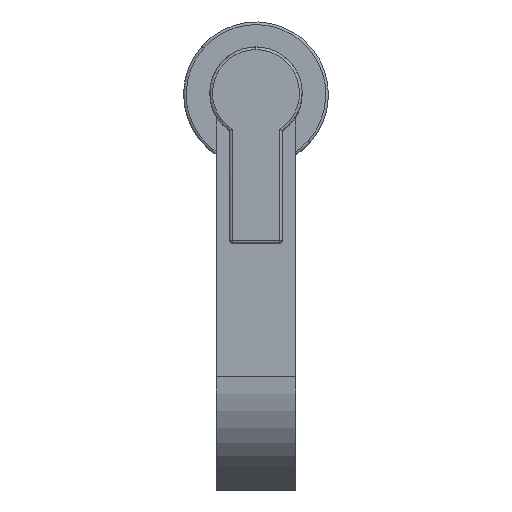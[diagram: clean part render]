
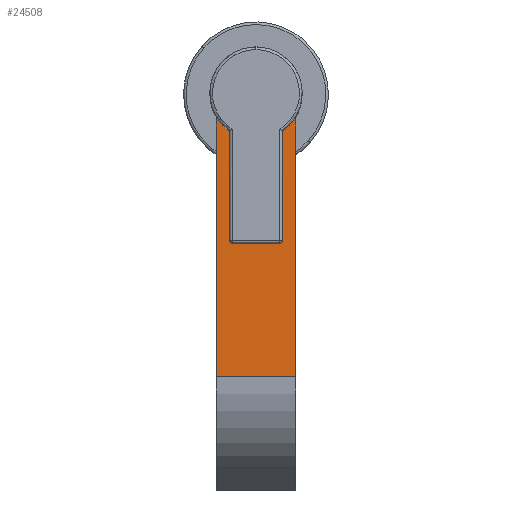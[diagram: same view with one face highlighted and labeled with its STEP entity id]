
A CAD part, top view. The second image highlights one B-rep face of the part: STEP entity #24508.
In plain terms, the highlighted planar face has unit normal (0, 0, 1) as drawn and (0, 1, 0) by its records, which use the part's own axes.
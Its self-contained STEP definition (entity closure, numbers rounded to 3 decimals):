
#36 = CARTESIAN_POINT ( 'NONE',  ( -15., 6., 98.5 ) ) ;
#243 = CARTESIAN_POINT ( 'NONE',  ( 0., 6., -9.014 ) ) ;
#451 = VECTOR ( 'NONE', #10899, 1000. ) ;
#1317 = ORIENTED_EDGE ( 'NONE', *, *, #6119, .F. ) ;
#1927 = LINE ( 'NONE', #13426, #23845 ) ;
#2109 = VERTEX_POINT ( 'NONE', #19499 ) ;
#2697 = EDGE_CURVE ( 'NONE', #20599, #2109, #1927, .T. ) ;
#3273 = VERTEX_POINT ( 'NONE', #36 ) ;
#3288 = CARTESIAN_POINT ( 'NONE',  ( 15., 6., 98.5 ) ) ;
#3953 = DIRECTION ( 'NONE',  ( 1., 0., 0. ) ) ;
#4317 = CIRCLE ( 'NONE', #24462, 17.5 ) ;
#6119 = EDGE_CURVE ( 'NONE', #7711, #2109, #4317, .T. ) ;
#7711 = VERTEX_POINT ( 'NONE', #29279 ) ;
#8221 = DIRECTION ( 'NONE',  ( 0., 0., -1. ) ) ;
#8405 = CARTESIAN_POINT ( 'NONE',  ( -15., 6., 98.5 ) ) ;
#10899 = DIRECTION ( 'NONE',  ( -1., 0., 0. ) ) ;
#11168 = DIRECTION ( 'NONE',  ( -1., 0., 0. ) ) ;
#12485 = CARTESIAN_POINT ( 'NONE',  ( 15., 6., 98.5 ) ) ;
#12750 = EDGE_CURVE ( 'NONE', #3273, #7711, #33620, .T. ) ;
#13426 = CARTESIAN_POINT ( 'NONE',  ( 15., 6., 98.5 ) ) ;
#13889 = CARTESIAN_POINT ( 'NONE',  ( 15., 6., 98.5 ) ) ;
#15080 = PLANE ( 'NONE',  #33553 ) ;
#16211 = DIRECTION ( 'NONE',  ( 0., 0., -1. ) ) ;
#16452 = VECTOR ( 'NONE', #8221, 1000. ) ;
#19499 = CARTESIAN_POINT ( 'NONE',  ( 15., 6., 0. ) ) ;
#20250 = DIRECTION ( 'NONE',  ( 0., 1., 0. ) ) ;
#20599 = VERTEX_POINT ( 'NONE', #3288 ) ;
#21265 = ORIENTED_EDGE ( 'NONE', *, *, #2697, .T. ) ;
#23845 = VECTOR ( 'NONE', #16211, 1000. ) ;
#24462 = AXIS2_PLACEMENT_3D ( 'NONE', #243, #20250, #11168 ) ;
#24508 = ADVANCED_FACE ( 'NONE', ( #35256 ), #15080, .F. ) ;
#26451 = EDGE_CURVE ( 'NONE', #20599, #3273, #33693, .T. ) ;
#27460 = EDGE_LOOP ( 'NONE', ( #21265, #1317, #28940, #35773 ) ) ;
#28940 = ORIENTED_EDGE ( 'NONE', *, *, #12750, .F. ) ;
#29279 = CARTESIAN_POINT ( 'NONE',  ( -15., 6., 0. ) ) ;
#29353 = DIRECTION ( 'NONE',  ( 0., -1., 0. ) ) ;
#33553 = AXIS2_PLACEMENT_3D ( 'NONE', #12485, #29353, #3953 ) ;
#33620 = LINE ( 'NONE', #8405, #16452 ) ;
#33693 = LINE ( 'NONE', #13889, #451 ) ;
#35256 = FACE_OUTER_BOUND ( 'NONE', #27460, .T. ) ;
#35773 = ORIENTED_EDGE ( 'NONE', *, *, #26451, .F. ) ;
